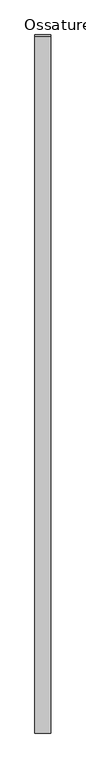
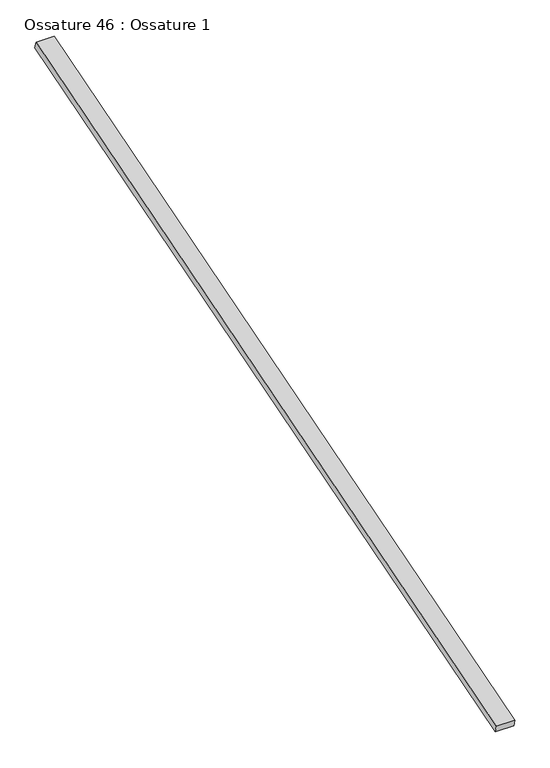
"""IFC4 building model written with IfcOpenShell, lengths in millimetres: beam geometry, Ossature 46 : Ossature 1."""

import ifcopenshell
import ifcopenshell.guid

model = None  # the IFC model being written
_history = None  # IfcOwnerHistory: only IFC2X3 demands one
_inside = {}  # id of a spatial element -> (the spatial element, [elements in it])
_under = {}  # id of a project, library or spatial element -> (it, [spatial elements below it])
_declared = {}  # id of a project -> (the project, [libraries it declares])
_typed = {}  # id of a type object -> (the type object, [elements of that type])
_made_of = {}  # id of a material, layer set ... -> (it, [elements and type objects made of it])


def new_model(schema):
    """Start an empty IFC model of exactly this schema.

    Asked for "IFC4X3", IfcOpenShell would pick the latest addendum, in which some entities
    have other attributes; the version numbers below select the first issue.
    IFC2X3 requires an IfcOwnerHistory on every rooted entity: one is made here for all.
    """
    global model, _history
    if schema == "IFC4X3":
        model = ifcopenshell.file(schema_version=(4, 3, 0, 0))
    else:
        model = ifcopenshell.file(schema=schema)
    _inside.clear()
    _under.clear()
    _declared.clear()
    _typed.clear()
    _made_of.clear()
    _history = None
    if model.schema == "IFC2X3":
        org = make("IfcOrganization", Name="unknown")
        user = make(
            "IfcPersonAndOrganization",
            ThePerson=make("IfcPerson", FamilyName="unknown"),
            TheOrganization=org,
        )
        app = make(
            "IfcApplication",
            ApplicationDeveloper=org,
            Version="unknown",
            ApplicationFullName="unknown",
            ApplicationIdentifier="unknown",
        )
        _history = make(
            "IfcOwnerHistory",
            OwningUser=user,
            OwningApplication=app,
            ChangeAction="ADDED",
            CreationDate=0,
        )
    return model


def make(cls, **values):
    """One entity of the class cls with the attributes given. An attribute that is None is left unset."""
    return model.create_entity(
        cls, **{name: value for name, value in values.items() if value is not None}
    )


def rooted(cls, **values):
    """An entity with a GlobalId (a new one), such as an element, a storey or a relation."""
    return make(cls, GlobalId=ifcopenshell.guid.new(), OwnerHistory=_history, **values)


def si_unit(unit_type, name, prefix=None):
    """IfcSIUnit, for example si_unit("LENGTHUNIT", "METRE", prefix="MILLI")."""
    return make("IfcSIUnit", UnitType=unit_type, Prefix=prefix, Name=name)


def assignment(units):
    """IfcUnitAssignment: the units of a project."""
    return None if units is None else make("IfcUnitAssignment", Units=units)


def point(xyz):
    """IfcCartesianPoint."""
    return None if xyz is None else make("IfcCartesianPoint", Coordinates=xyz)


def direction(xyz):
    """IfcDirection."""
    return None if xyz is None else make("IfcDirection", DirectionRatios=xyz)


def frame(location, z_axis=None, x_axis=None):
    """IfcAxis2Placement3D, a coordinate frame: its origin and axes. An axis left out is left unset."""
    return make(
        "IfcAxis2Placement3D",
        Location=point(location),
        Axis=direction(z_axis),
        RefDirection=direction(x_axis),
    )


def origin():
    """The frame at (0, 0, 0) with its axes left unset."""
    return frame((0.0, 0.0, 0.0))


def place(relative_to, where):
    """IfcLocalPlacement: puts the frame where relative to a parent placement (None: the world)."""
    return make(
        "IfcLocalPlacement", PlacementRelTo=relative_to, RelativePlacement=where
    )


def context(
    kind, dimensions, precision=None, world=None, true_north=None, identifier=None
):
    """IfcGeometricRepresentationContext, for example the 3D "Model" context."""
    return make(
        "IfcGeometricRepresentationContext",
        ContextIdentifier=identifier,
        ContextType=kind,
        CoordinateSpaceDimension=dimensions,
        Precision=precision,
        WorldCoordinateSystem=world,
        TrueNorth=true_north,
    )


def project(units=None, contexts=None):
    """IfcProject with its units and contexts."""
    return rooted(
        "IfcProject",
        Name="project",
        RepresentationContexts=contexts,
        UnitsInContext=assignment(units),
    )


def spatial(cls, under=None, at=None, **own):
    """A site, building, storey or space (cls), placed at a placement, below another one or the project."""
    s = rooted(cls, ObjectPlacement=at, **own)
    if under is not None:
        _under.setdefault(under.id(), (under, []))[1].append(s)
    return s


def polyline(points):
    """IfcPolyline through the points."""
    return make("IfcPolyline", Points=[point(p) for p in points])


def outline(outer, holes=None, kind="AREA"):
    """IfcArbitraryClosedProfileDef: a profile drawn as a closed curve; with holes, ...WithVoids."""
    if holes is None:
        return make("IfcArbitraryClosedProfileDef", ProfileType=kind, OuterCurve=outer)
    return make(
        "IfcArbitraryProfileDefWithVoids",
        ProfileType=kind,
        OuterCurve=outer,
        InnerCurves=holes,
    )


def extrude(swept, where, along, depth):
    """IfcExtrudedAreaSolid: the profile swept, set in the frame where, extruded along a direction by depth."""
    return make(
        "IfcExtrudedAreaSolid",
        SweptArea=swept,
        Position=where,
        ExtrudedDirection=direction(along),
        Depth=depth,
    )


def shape(context_of_items, identifier, shape_type, items):
    """IfcShapeRepresentation: the items that make up one representation, for example the "Body"."""
    return make(
        "IfcShapeRepresentation",
        ContextOfItems=context_of_items,
        RepresentationIdentifier=identifier,
        RepresentationType=shape_type,
        Items=items,
    )


def source(mapping_origin, context_of_items, identifier, shape_type, items):
    """IfcRepresentationMap: a shape defined once, which mapped items show again and again."""
    return make(
        "IfcRepresentationMap",
        MappingOrigin=mapping_origin,
        MappedRepresentation=shape(context_of_items, identifier, shape_type, items),
    )


def transform(
    local_origin,
    x_axis=None,
    y_axis=None,
    z_axis=None,
    scale=None,
    scale2=None,
    scale3=None,
    uniform=True,
):
    """IfcCartesianTransformationOperator3D, or its non-uniform kind. x_axis, y_axis, z_axis: its Axis1, 2, 3."""
    if uniform:
        return make(
            "IfcCartesianTransformationOperator3D",
            Axis1=direction(x_axis),
            Axis2=direction(y_axis),
            LocalOrigin=point(local_origin),
            Scale=scale,
            Axis3=direction(z_axis),
        )
    return make(
        "IfcCartesianTransformationOperator3DnonUniform",
        Axis1=direction(x_axis),
        Axis2=direction(y_axis),
        LocalOrigin=point(local_origin),
        Scale=scale,
        Axis3=direction(z_axis),
        Scale2=scale2,
        Scale3=scale3,
    )


def mapped(mapping_source, mapping_target):
    """IfcMappedItem: shows the shape of a source again, moved by a transform."""
    return make(
        "IfcMappedItem", MappingSource=mapping_source, MappingTarget=mapping_target
    )


def made_of(thing, what):
    """Note that an element or type object is made of a material, layer set ...; save() writes the relation."""
    if what is not None:
        _made_of.setdefault(what.id(), (what, []))[1].append(thing)
    return thing


def element(
    cls,
    number,
    at=None,
    inside=None,
    cuts=None,
    type_object=None,
    material=None,
    context=None,
    identifier="Body",
    shape_type=None,
    held_by="IfcProductDefinitionShape",
    body=None,
    shapes=None,
    **own,
):
    """One element of the class cls, such as IfcWall. Its Tag is "e" and its number.

    at: its placement. inside: the storey or other place that contains it. cuts: it is an
    opening in that element (IfcRelVoidsElement). A single representation is given by context,
    identifier, shape_type and body (its items); several are given by shapes. held_by: the class
    of the entity that holds the representations. save() writes the other relations.
    """
    e = rooted(cls, Tag="e%d" % number, ObjectPlacement=at, **own)
    if body is not None:
        shapes = [shape(context, identifier, shape_type, body)]
    if shapes is not None:
        e.Representation = make(held_by, Representations=shapes)
    if inside is not None:
        _inside.setdefault(inside.id(), (inside, []))[1].append(e)
    if cuts is not None:
        rooted(
            "IfcRelVoidsElement", RelatingBuildingElement=cuts, RelatedOpeningElement=e
        )
    if type_object is not None:
        _typed.setdefault(type_object.id(), (type_object, []))[1].append(e)
    return made_of(e, material)


def aggregate(whole, parts):
    """IfcRelAggregates: a whole, such as a stair, and the parts it consists of."""
    return rooted("IfcRelAggregates", RelatingObject=whole, RelatedObjects=parts)


def save(model, path):
    """Write the relations noted so far, then the file.

    IfcRelAggregates (storeys below a building ...), IfcRelContainedInSpatialStructure (elements
    in a storey), IfcRelDefinesByType, IfcRelAssociatesMaterial and IfcRelDeclares: one each for
    every whole, place, type object, material and project.
    """
    for whole, parts in _under.values():
        aggregate(whole, parts)
    for where, things in _inside.values():
        rooted(
            "IfcRelContainedInSpatialStructure",
            RelatedElements=things,
            RelatingStructure=where,
        )
    for kind, things in _typed.values():
        rooted("IfcRelDefinesByType", RelatedObjects=things, RelatingType=kind)
    for what, things in _made_of.values():
        rooted("IfcRelAssociatesMaterial", RelatedObjects=things, RelatingMaterial=what)
    for by, libraries in _declared.values():
        rooted("IfcRelDeclares", RelatingContext=by, RelatedDefinitions=libraries)
    model.write(path)


def ossature_46_ossature_1_5d8acc89(model_context):
    return source(origin(), model_context, "Body", "SweptSolid", [
        extrude(outline(polyline([(0.0, 0.0), (0.0, -4543.0299679), (-100.0, -4543.0299679), (-100.0, 0.0), (0.0, 0.0)])), frame((11254.4466393, -833.3913565, 8153.6336115), z_axis=(0.0, -0.28734788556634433, 0.9578262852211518), x_axis=(-1.0, 0.0, 0.0)), (0.0, 0.0, 1.0), 40.0),
    ])


if __name__ == "__main__":
    model = new_model("IFC4")
    model_context = context("Model", 3, world=origin())
    ifc_project = project(units=[si_unit("LENGTHUNIT", "METRE", prefix="MILLI")], contexts=[model_context])
    site = spatial("IfcSite", under=ifc_project)
    building = spatial("IfcBuilding", under=site)
    placement = place(None, origin())
    ossature_46_ossature_1_shape = ossature_46_ossature_1_5d8acc89(model_context)
    element("IfcBeam", 1, ObjectType="Ossature 46 : Ossature 1", at=placement, inside=building, context=model_context, shape_type="MappedRepresentation", body=[
        mapped(ossature_46_ossature_1_shape, transform((0.0, 0.0, 0.0), x_axis=(1.0, 0.0, 0.0), y_axis=(0.0, 1.0, 0.0), z_axis=(0.0, 0.0, 1.0))),
    ])
    save(model, "model.ifc")
